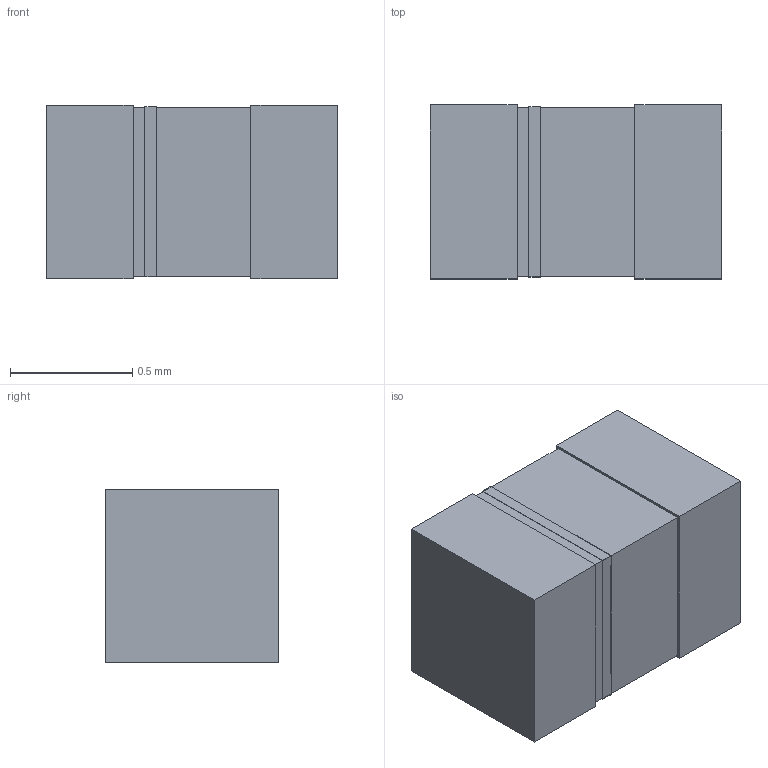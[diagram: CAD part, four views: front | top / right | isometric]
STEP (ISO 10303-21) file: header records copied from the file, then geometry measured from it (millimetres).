
FILE_DESCRIPTION(('STEP AP214'),'1');
FILE_NAME('CAP_CC0402KRX7R5BB105_YAG','2025-03-24T02:52:56',(''),(''),'','','');
FILE_SCHEMA(('AUTOMOTIVE_DESIGN'));
Length unit declared in the file: millimetre
Products named in the file (1): product
Bounding box: 1.19 x 0.71 x 0.71 mm (x, y, z)
Volume: 0.6 mm3; surface area: 6.6 mm2
Topology: 4 solids, 4 shells, 30 faces, 64 edges, 40 vertices
Faces by surface type: plane 30
Entity records: 916 total; most frequent: ORIENTED_EDGE 128, DIRECTION 126, CARTESIAN_POINT 71, EDGE_CURVE 64, LINE 64, VECTOR 64, VERTEX_POINT 40, AXIS2_PLACEMENT_3D 31
